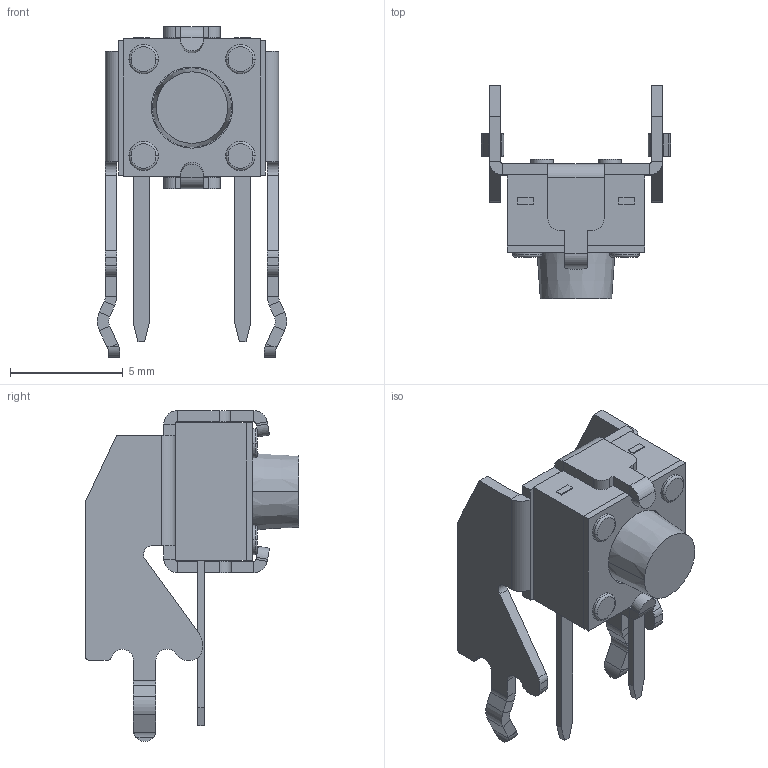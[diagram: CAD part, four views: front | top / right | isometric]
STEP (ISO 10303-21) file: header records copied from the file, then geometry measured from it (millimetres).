
FILE_DESCRIPTION((''),'2;1');
FILE_NAME('JQC6060I-B0551-01G-101_ASM','2026-05-25T16:00:23',('Admin'),(''),'CREO PARAMETRIC BY PTC INC, 2019224','CREO PARAMETRIC BY PTC INC, 2019224','');
FILE_SCHEMA(('AUTOMOTIVE_DESIGN { 1 0 10303 214 1 1 1 1 }'));
Length unit declared in the file: millimetre
Products named in the file (4): JQC6060I-B0551-01G-101_01; JQC6060I-B0551-01G-101_02; JQC6060I-B0551-01G-101_04; JQC6060I-B0551-01G-101_ASM
Assembly tree (3 placements, depth 2):
  JQC6060I-B0551-01G-101_ASM
    JQC6060I-B0551-01G-101_01
    JQC6060I-B0551-01G-101_02
    JQC6060I-B0551-01G-101_04
Bounding box: 8.4 x 9.5 x 14.7 mm (x, y, z)
Volume: 219.5 mm3; surface area: 614.4 mm2
Topology: 3 solids, 3 shells, 247 faces, 612 edges, 420 vertices
Faces by surface type: plane 151, cylinder 86, torus 8, cone 2
Entity records: 8289 total; most frequent: DIRECTION 1314, CARTESIAN_POINT 1283, ORIENTED_EDGE 1160, EDGE_CURVE 580, AXIS2_PLACEMENT_3D 451, VECTOR 412, LINE 412, VERTEX_POINT 356
